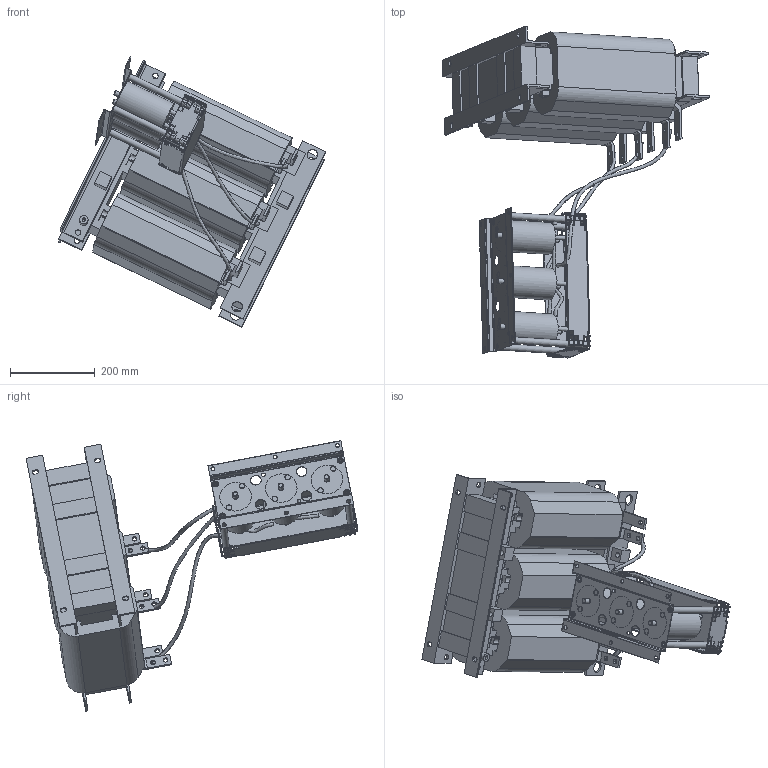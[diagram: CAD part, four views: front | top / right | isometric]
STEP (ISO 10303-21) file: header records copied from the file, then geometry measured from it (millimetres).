
FILE_DESCRIPTION((''),'2;1');
FILE_NAME('P:\Construction\Filter_Marketing\FN\FN5040\FN5040-260-99\FN5040-260-99.stp','2014-10-14T11:27:36',('samuel.meier'),(''),'Autodesk Inventor 2013','Autodesk Inventor 2013','');
FILE_SCHEMA(('AUTOMOTIVE_DESIGN { 1 2 10303 214 0 1 1 1 }'));
Length unit declared in the file: millimetre
Products named in the file (4): Baugruppe2; INDUCTOR; CAPS; CABLES
Assembly tree (3 placements, depth 2):
  Baugruppe2
    INDUCTOR
    CAPS
    CABLES
Bounding box: 631.98 x 785.18 x 640.39 mm (x, y, z)
Volume: 27455138.6 mm3; surface area: 2293688.1 mm2
Topology: 5 solids, 11 shells, 1165 faces, 3643 edges, 2387 vertices
Faces by surface type: plane 899, cylinder 223, cone 33, bspline 6, torus 4
Full cylindrical faces by diameter (mm): 6.647 x8, 8.376 x1, 9 x12, 9.1 x2, 9.5 x2, 9.9 x2, 10 x10, 10.3 x2, 11 x9, 12 x11, 13 x13, 15 x4, 20 x1, 25 x8, 75 x3
Entity records: 44370 total; most frequent: CARTESIAN_POINT 10109, ORIENTED_EDGE 6966, DIRECTION 6327, EDGE_CURVE 3489, VECTOR 2971, LINE 2971, VERTEX_POINT 2358, AXIS2_PLACEMENT_3D 1678
